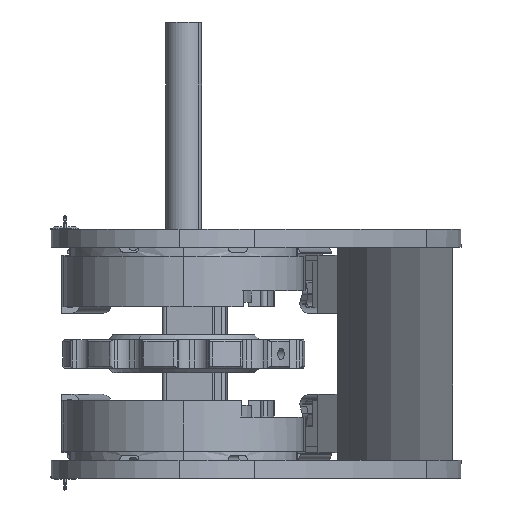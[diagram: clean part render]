
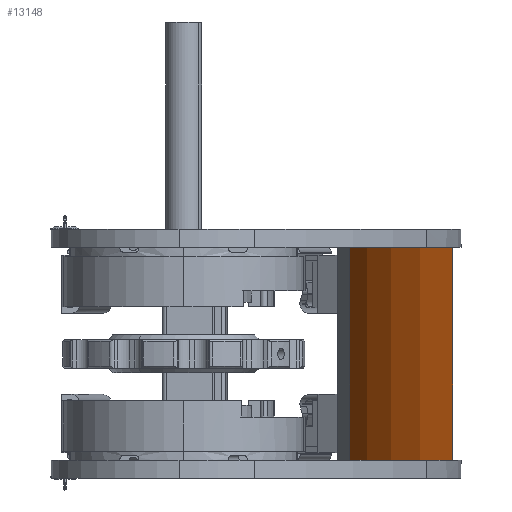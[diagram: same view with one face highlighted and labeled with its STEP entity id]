
A CAD part, left-side view. The second image highlights one B-rep face of the part: STEP entity #13148.
In plain terms, the highlighted cylindrical face has radius 126 mm (diameter 252 mm), a partial arc.
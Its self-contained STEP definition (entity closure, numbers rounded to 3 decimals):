
#2294 = AXIS2_PLACEMENT_3D ( 'NONE', #8201, #8202, #8203 ) ;
#2295 = AXIS2_PLACEMENT_3D ( 'NONE', #8206, #8207, #8208 ) ;
#6449 = LINE ( 'NONE', #8204, #6451 ) ;
#6450 = CIRCLE ( 'NONE', #2294, 126. ) ;
#6451 = VECTOR ( 'NONE', #8205, 1000. ) ;
#6452 = LINE ( 'NONE', #8209, #6454 ) ;
#6453 = CIRCLE ( 'NONE', #2295, 126. ) ;
#6454 = VECTOR ( 'NONE', #8210, 1000. ) ;
#8201 = CARTESIAN_POINT ( 'NONE',  ( 228.806, -177.546, -15.2 ) ) ;
#8202 = DIRECTION ( 'NONE',  ( 0., 0., 1. ) ) ;
#8203 = DIRECTION ( 'NONE',  ( 0.928, 0.374, 0. ) ) ;
#8204 = CARTESIAN_POINT ( 'NONE',  ( 117.965, -117.628, 102.8 ) ) ;
#8205 = DIRECTION ( 'NONE',  ( 0., 0., -1. ) ) ;
#8206 = CARTESIAN_POINT ( 'NONE',  ( 228.806, -177.546, 102.8 ) ) ;
#8207 = DIRECTION ( 'NONE',  ( 0., 0., 1. ) ) ;
#8208 = DIRECTION ( 'NONE',  ( 0.928, 0.374, 0. ) ) ;
#8209 = CARTESIAN_POINT ( 'NONE',  ( 182.259, -60.459, 102.8 ) ) ;
#8210 = DIRECTION ( 'NONE',  ( 0., 0., -1. ) ) ;
#11407 = CARTESIAN_POINT ( 'NONE',  ( 182.259, -60.459, -15.2 ) ) ;
#11408 = CARTESIAN_POINT ( 'NONE',  ( 117.965, -117.628, -15.2 ) ) ;
#11409 = CARTESIAN_POINT ( 'NONE',  ( 117.965, -117.628, 102.8 ) ) ;
#11410 = CARTESIAN_POINT ( 'NONE',  ( 182.259, -60.459, 102.8 ) ) ;
#13148 = ADVANCED_FACE ( 'NONE', ( #23792 ), #23793, .T. ) ;
#15975 = EDGE_CURVE ( 'NONE', #21719, #21720, #6450, .T. ) ;
#15976 = EDGE_CURVE ( 'NONE', #21721, #21720, #6449, .T. ) ;
#15977 = EDGE_CURVE ( 'NONE', #21722, #21721, #6453, .T. ) ;
#15978 = EDGE_CURVE ( 'NONE', #21722, #21719, #6452, .T. ) ;
#18448 = EDGE_LOOP ( 'NONE', ( #20363, #20364, #20365, #20366 ) ) ;
#19818 = AXIS2_PLACEMENT_3D ( 'NONE', #25687, #25688, #25689 ) ;
#20363 = ORIENTED_EDGE ( 'NONE', *, *, #15975, .T. ) ;
#20364 = ORIENTED_EDGE ( 'NONE', *, *, #15976, .F. ) ;
#20365 = ORIENTED_EDGE ( 'NONE', *, *, #15977, .F. ) ;
#20366 = ORIENTED_EDGE ( 'NONE', *, *, #15978, .T. ) ;
#21719 = VERTEX_POINT ( 'NONE', #11407 ) ;
#21720 = VERTEX_POINT ( 'NONE', #11408 ) ;
#21721 = VERTEX_POINT ( 'NONE', #11409 ) ;
#21722 = VERTEX_POINT ( 'NONE', #11410 ) ;
#23792 = FACE_OUTER_BOUND ( 'NONE', #18448, .T. ) ;
#23793 = CYLINDRICAL_SURFACE ( 'NONE', #19818, 126. ) ;
#25687 = CARTESIAN_POINT ( 'NONE',  ( 228.806, -177.546, 102.8 ) ) ;
#25688 = DIRECTION ( 'NONE',  ( 0., 0., -1. ) ) ;
#25689 = DIRECTION ( 'NONE',  ( -0.928, -0.374, 0. ) ) ;
